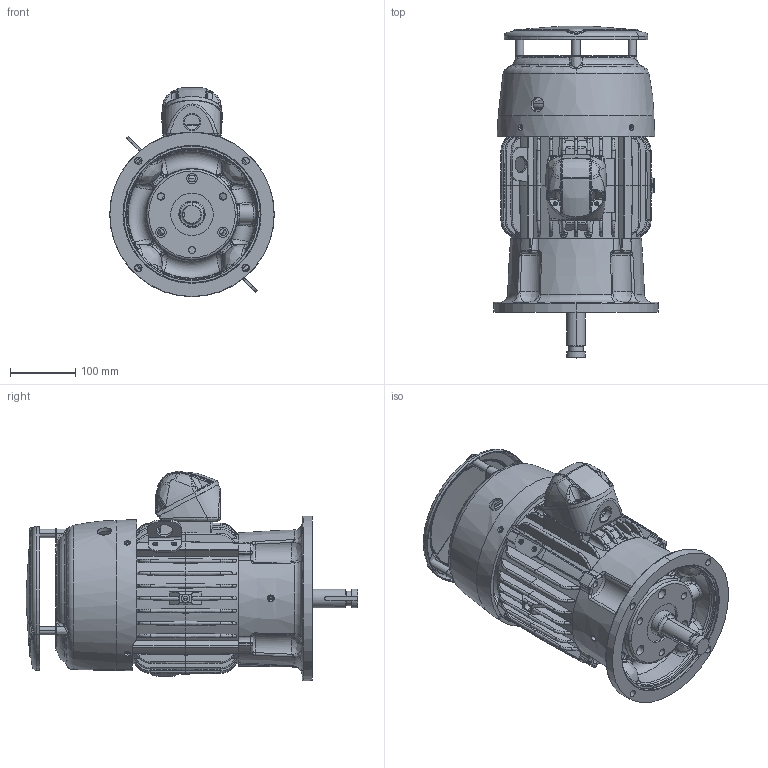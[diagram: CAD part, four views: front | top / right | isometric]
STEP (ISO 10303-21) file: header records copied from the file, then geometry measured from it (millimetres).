
FILE_DESCRIPTION((''),'2;1');
FILE_NAME('180HP_TCVS_ASM','2019-12-17T13:22:37',('EMD2341'),('Nidec Motor Corporation'),'CREO PARAMETRIC BY PTC INC, 2018300','CREO PARAMETRIC BY PTC INC, 2018300','');
FILE_SCHEMA(('CONFIG_CONTROL_DESIGN'));
Length unit declared in the file: inch
Products named in the file (12): 0626627-006; 2031359; 2020254; 0169739-SPA; 2005476; 2023317; 0076667; 0075589; 1001529-OP05; 0163897; 2031272; 180HP_TCVS_ASM
Assembly tree (14 placements, depth 2):
  180HP_TCVS_ASM
    0626627-006
    2031359
    2020254
    0169739-SPA  x3
    2005476  x2
    2023317
    0076667
    0075589
    1001529-OP05
    0163897
    2031272
Bounding box: 251.87 x 507.7 x 320.23 mm (x, y, z)
Volume: 4350851.6 mm3; surface area: 1282997.2 mm2
Topology: 14 solids, 50 shells, 3324 faces, 8312 edges, 5008 vertices
Faces by surface type: bspline 1516, cylinder 616, plane 563, torus 324, cone 241, sphere 63, extrusion 1
Entity records: 166494 total; most frequent: CARTESIAN_POINT 99447, ORIENTED_EDGE 16147, DIRECTION 10919, EDGE_CURVE 8172, VERTEX_POINT 4956, AXIS2_PLACEMENT_3D 4740, B_SPLINE_CURVE_WITH_KNOTS 3804, EDGE_LOOP 3513
